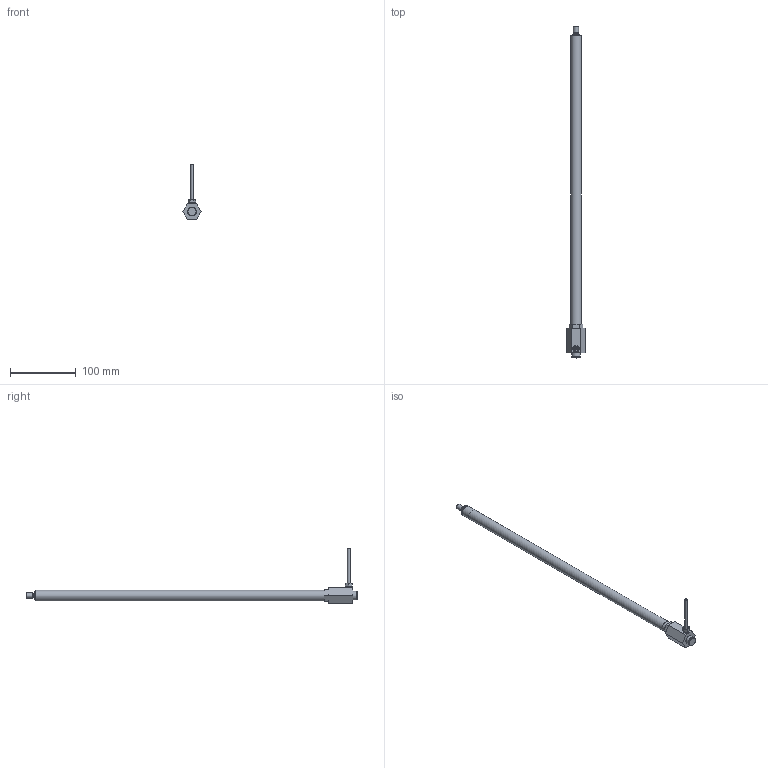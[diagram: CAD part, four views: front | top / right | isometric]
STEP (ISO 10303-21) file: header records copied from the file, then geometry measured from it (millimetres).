
FILE_DESCRIPTION(/* description */ ('Unknown'),/* implementation_level */ '2;1');
FILE_NAME(/* name */ '107.00294 Zylinder CH 1440 V_eingefahren',/* time_stamp */ '2018-06-21T15:46:04+02:00',/* author */ ('Unknown'),/* organization */ ('Unknown'),/* preprocessor_version */ 'ST-DEVELOPER v16.7',/* originating_system */ 'DEX',/* authorisation */ $);
FILE_SCHEMA (('AUTOMOTIVE_DESIGN {1 0 10303 214 3 1 1}'));
Length unit declared in the file: millimetre
Products named in the file (11): 107.00294; 121.00004; 142.00021; 125.00021; 115.00007_oa_0; 115.00111_oa_1; 125.00245; 125.00226; 120.00024; 122.00001; 113.00002_70mm
Assembly tree (10 placements, depth 3):
  107.00294
    121.00004
    142.00021
    125.00021
    115.00007_oa_0
    115.00111_oa_1
      125.00245
      125.00226
    120.00024
    122.00001
    113.00002_70mm
Bounding box: 27.71 x 504.5 x 83.5 mm (x, y, z)
Volume: 91683.1 mm3; surface area: 68566.9 mm2
Topology: 8 solids, 8 shells, 129 faces, 266 edges, 169 vertices
Faces by surface type: plane 51, cylinder 44, cone 26, torus 7, sphere 1
Full cylindrical faces by diameter (mm): 2.2 x1, 2.99 x1, 3.5 x2, 4 x1, 4.1 x1, 4.2 x1, 5 x1, 6 x1, 6.917 x2, 7.763 x2, 8 x6, 8.1 x3, 8.4 x1, 8.917 x2, 9 x1, 10 x1, 12 x2, 12.5 x1, 13 x3, 13.9 x2, 14 x2, 16 x1
Entity records: 4017 total; most frequent: DIRECTION 562, CARTESIAN_POINT 534, ORIENTED_EDGE 368, AXIS2_PLACEMENT_3D 251, FACE_BOUND 226, EDGE_LOOP 224, EDGE_CURVE 184, VERTEX_POINT 156
